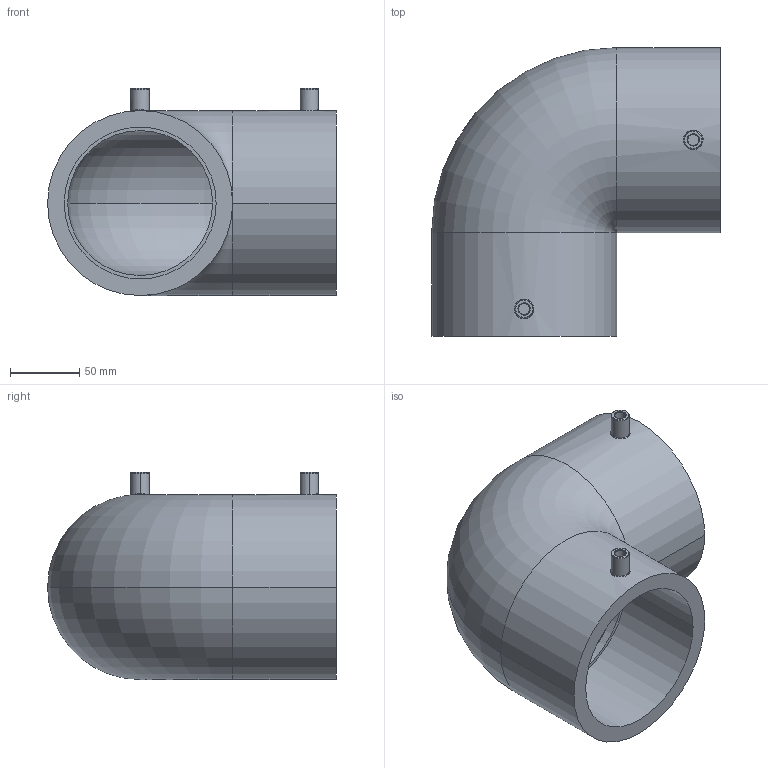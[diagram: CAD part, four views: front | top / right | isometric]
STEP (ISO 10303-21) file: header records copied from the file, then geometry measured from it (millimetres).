
FILE_DESCRIPTION (( 'STEP AP203' ), '1' );
FILE_NAME ('KP_23-110.step', '2011-08-08T11:39:00', ( '' ), ( '' ), 'SwSTEP 2.0', 'SolidWorks 2011', '' );
FILE_SCHEMA (( 'CONFIG_CONTROL_DESIGN' ));
Length unit declared in the file: millimetre
Products named in the file (1): KP_23-110
Bounding box: 209.1 x 209.1 x 150 mm (x, y, z)
Volume: 1276038.4 mm3; surface area: 207232 mm2
Topology: 1 solids, 1 shells, 44 faces, 94 edges, 58 vertices
Faces by surface type: cylinder 20, torus 12, plane 8, bspline 4
Entity records: 2128 total; most frequent: CARTESIAN_POINT 1076, DIRECTION 226, ORIENTED_EDGE 188, AXIS2_PLACEMENT_3D 103, EDGE_CURVE 94, CIRCLE 62, VERTEX_POINT 58, EDGE_LOOP 52
